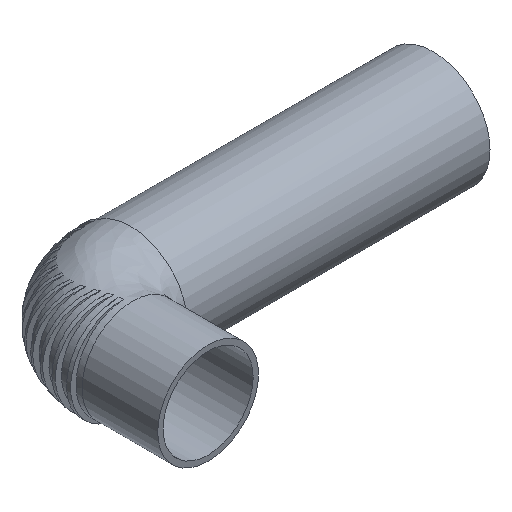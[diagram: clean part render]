
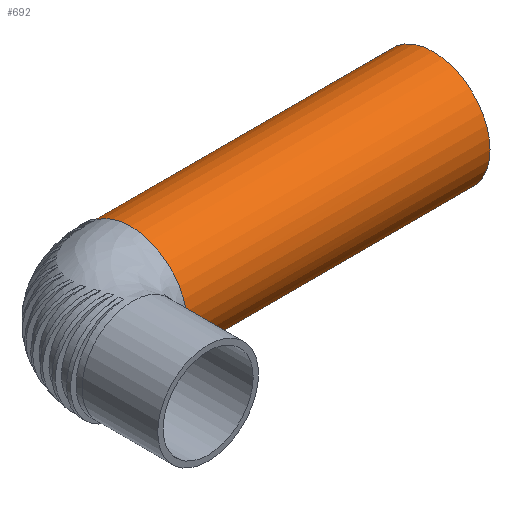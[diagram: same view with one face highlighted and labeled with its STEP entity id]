
A CAD part, isometric view. The second image highlights one B-rep face of the part: STEP entity #692.
In plain terms, the highlighted cylindrical face has radius 31.5 mm (diameter 63 mm), a full revolution.
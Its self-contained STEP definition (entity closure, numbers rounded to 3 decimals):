
#12=FACE_BOUND($,#154,.T.);
#31=LINE($,#1365,#33);
#32=LINE($,#1376,#34);
#33=VECTOR($,#812,1.125);
#34=VECTOR($,#813,1.125);
#46=CYLINDRICAL_SURFACE($,#769,31.5);
#111=FACE_OUTER_BOUND($,#153,.T.);
#153=EDGE_LOOP($,(#527,#528,#529,#530,#531));
#154=EDGE_LOOP($,(#532));
#249=CIRCLE($,#738,31.5);
#260=CIRCLE($,#770,31.5);
#261=CIRCLE($,#771,31.5);
#262=CIRCLE($,#772,31.5);
#280=VERTEX_POINT($,#1363);
#281=VERTEX_POINT($,#1364);
#282=VERTEX_POINT($,#1370);
#283=VERTEX_POINT($,#1375);
#324=VERTEX_POINT($,#1890);
#325=VERTEX_POINT($,#1893);
#346=EDGE_CURVE($,#280,#281,#31,.T.);
#349=EDGE_CURVE($,#283,#282,#32,.T.);
#371=EDGE_CURVE($,#281,#283,#249,.T.);
#412=EDGE_CURVE($,#324,#282,#260,.T.);
#413=EDGE_CURVE($,#280,#324,#261,.T.);
#414=EDGE_CURVE($,#325,#325,#262,.T.);
#527=ORIENTED_EDGE($,*,*,#346,.T.);
#528=ORIENTED_EDGE($,*,*,#371,.T.);
#529=ORIENTED_EDGE($,*,*,#349,.T.);
#530=ORIENTED_EDGE($,*,*,#412,.F.);
#531=ORIENTED_EDGE($,*,*,#413,.F.);
#532=ORIENTED_EDGE($,*,*,#414,.T.);
#692=ADVANCED_FACE($,(#111,#12),#46,.T.);
#738=AXIS2_PLACEMENT_3D($,#1575,#858,#859);
#769=AXIS2_PLACEMENT_3D($,#1889,#920,#921);
#770=AXIS2_PLACEMENT_3D($,#1891,#922,#923);
#771=AXIS2_PLACEMENT_3D($,#1892,#924,#925);
#772=AXIS2_PLACEMENT_3D($,#1894,#926,#927);
#812=DIRECTION($,(1.,0.,0.));
#813=DIRECTION($,(-1.,0.,0.));
#858=DIRECTION('center_axis',(1.,0.,0.));
#859=DIRECTION('ref_axis',(0.,-1.,0.));
#920=DIRECTION('center_axis',(-1.,0.,0.));
#921=DIRECTION('ref_axis',(0.,-1.,0.));
#922=DIRECTION('center_axis',(-1.,0.,0.));
#923=DIRECTION('ref_axis',(0.,-1.,0.));
#924=DIRECTION('center_axis',(-1.,0.,0.));
#925=DIRECTION('ref_axis',(0.,-1.,0.));
#926=DIRECTION('center_axis',(-1.,0.,0.));
#927=DIRECTION('ref_axis',(0.,-1.,0.));
#1363=CARTESIAN_POINT('',(32.,94.269,-24.919));
#1364=CARTESIAN_POINT('',(33.125,94.269,-24.919));
#1365=CARTESIAN_POINT($,(32.,94.269,-24.919));
#1370=CARTESIAN_POINT('',(32.,94.269,24.919));
#1375=CARTESIAN_POINT('',(33.125,94.269,24.919));
#1376=CARTESIAN_POINT($,(32.,94.269,24.919));
#1575=CARTESIAN_POINT('Origin',(33.125,75.,0.));
#1889=CARTESIAN_POINT('Origin',(200.,75.,0.));
#1890=CARTESIAN_POINT('',(32.,75.,31.5));
#1891=CARTESIAN_POINT('Origin',(32.,75.,0.));
#1892=CARTESIAN_POINT('Origin',(32.,75.,0.));
#1893=CARTESIAN_POINT('',(200.,106.5,0.));
#1894=CARTESIAN_POINT('Origin',(200.,75.,0.));
